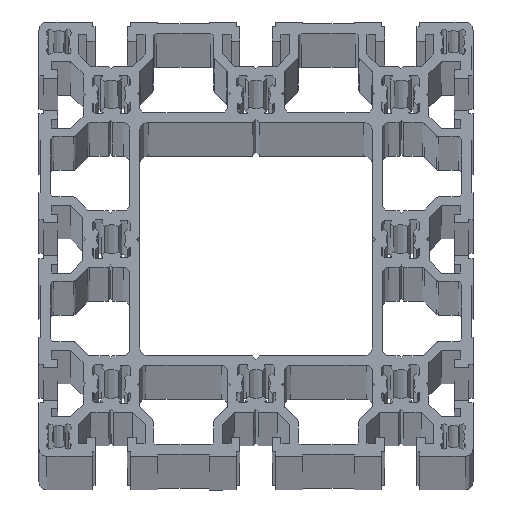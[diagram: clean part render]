
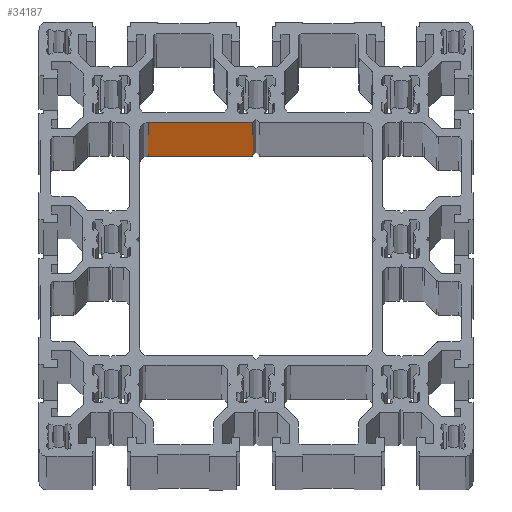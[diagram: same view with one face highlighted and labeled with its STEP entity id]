
A CAD part, top view. The second image highlights one B-rep face of the part: STEP entity #34187.
In plain terms, the highlighted planar face has unit normal (0, -1, 0).
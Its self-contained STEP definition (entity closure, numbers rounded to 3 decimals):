
#576 = VERTEX_POINT ( 'NONE', #34914 ) ;
#1325 = CARTESIAN_POINT ( 'NONE',  ( 34.061, 103.8, -6000. ) ) ;
#2667 = EDGE_CURVE ( 'NONE', #576, #6132, #24891, .T. ) ;
#3167 = VECTOR ( 'NONE', #24386, 1000. ) ;
#3267 = DIRECTION ( 'NONE',  ( 0., -1., 0. ) ) ;
#3330 = VECTOR ( 'NONE', #23111, 1000. ) ;
#3564 = LINE ( 'NONE', #7501, #18011 ) ;
#5898 = EDGE_CURVE ( 'NONE', #8168, #6132, #32315, .T. ) ;
#6132 = VERTEX_POINT ( 'NONE', #24285 ) ;
#7501 = CARTESIAN_POINT ( 'NONE',  ( 66.505, 103.8, -6000. ) ) ;
#8168 = VERTEX_POINT ( 'NONE', #32056 ) ;
#8241 = EDGE_CURVE ( 'NONE', #32098, #576, #3564, .T. ) ;
#8487 = ORIENTED_EDGE ( 'NONE', *, *, #2667, .T. ) ;
#9795 = FACE_OUTER_BOUND ( 'NONE', #17538, .T. ) ;
#10593 = VECTOR ( 'NONE', #19668, 1000. ) ;
#10938 = EDGE_CURVE ( 'NONE', #32098, #8168, #32352, .T. ) ;
#11442 = CARTESIAN_POINT ( 'NONE',  ( 0., 103.8, -6000. ) ) ;
#14305 = ORIENTED_EDGE ( 'NONE', *, *, #5898, .F. ) ;
#17538 = EDGE_LOOP ( 'NONE', ( #8487, #14305, #33978, #17733 ) ) ;
#17733 = ORIENTED_EDGE ( 'NONE', *, *, #8241, .T. ) ;
#17744 = AXIS2_PLACEMENT_3D ( 'NONE', #19541, #3267, #22317 ) ;
#18011 = VECTOR ( 'NONE', #26595, 1000. ) ;
#19541 = CARTESIAN_POINT ( 'NONE',  ( 0., 103.8, -6000. ) ) ;
#19668 = DIRECTION ( 'NONE',  ( -1., 0., 0. ) ) ;
#21640 = CARTESIAN_POINT ( 'NONE',  ( 0., 103.8, 0. ) ) ;
#22317 = DIRECTION ( 'NONE',  ( -1., 0., 0. ) ) ;
#23111 = DIRECTION ( 'NONE',  ( 0., 0., 1. ) ) ;
#24285 = CARTESIAN_POINT ( 'NONE',  ( 34.061, 103.8, 0. ) ) ;
#24386 = DIRECTION ( 'NONE',  ( -1., 0., 0. ) ) ;
#24891 = LINE ( 'NONE', #21640, #3167 ) ;
#25021 = CARTESIAN_POINT ( 'NONE',  ( 66.505, 103.8, -6000. ) ) ;
#26595 = DIRECTION ( 'NONE',  ( 0., 0., 1. ) ) ;
#27688 = PLANE ( 'NONE',  #17744 ) ;
#32056 = CARTESIAN_POINT ( 'NONE',  ( 34.061, 103.8, -6000. ) ) ;
#32098 = VERTEX_POINT ( 'NONE', #25021 ) ;
#32315 = LINE ( 'NONE', #1325, #3330 ) ;
#32352 = LINE ( 'NONE', #11442, #10593 ) ;
#33978 = ORIENTED_EDGE ( 'NONE', *, *, #10938, .F. ) ;
#34187 = ADVANCED_FACE ( 'NONE', ( #9795 ), #27688, .T. ) ;
#34914 = CARTESIAN_POINT ( 'NONE',  ( 66.505, 103.8, 0. ) ) ;
